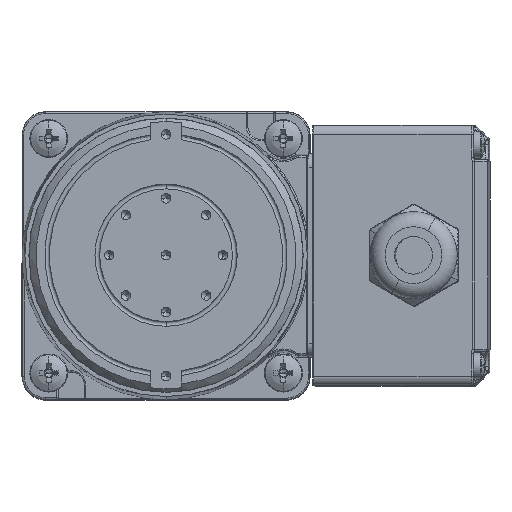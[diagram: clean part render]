
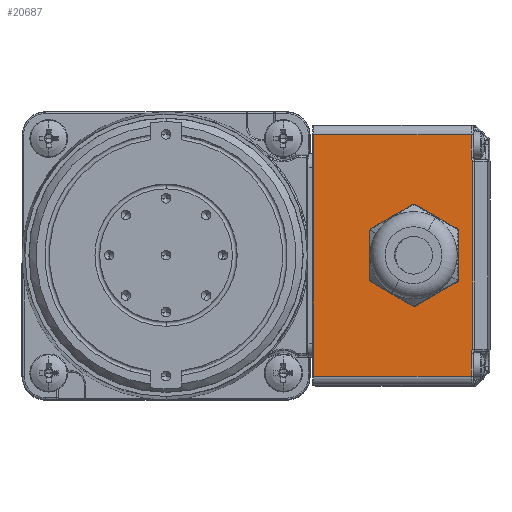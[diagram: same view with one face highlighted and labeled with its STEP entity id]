
A CAD part, top view. The second image highlights one B-rep face of the part: STEP entity #20687.
In plain terms, the highlighted planar face has unit normal (-0.009, 0, 1) as drawn and (0, 1, -0.008) by its records, which use the part's own axes.
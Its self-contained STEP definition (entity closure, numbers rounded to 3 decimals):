
#74 = ORIENTED_EDGE ( 'NONE', *, *, #23155, .F. ) ;
#878 = DIRECTION ( 'NONE',  ( 0., -0.008, -1. ) ) ;
#883 = AXIS2_PLACEMENT_3D ( 'NONE', #31025, #4067, #16067 ) ;
#917 = DIRECTION ( 'NONE',  ( 1., 0., 0. ) ) ;
#1681 = CARTESIAN_POINT ( 'NONE',  ( -19.875, 51.113, 74.305 ) ) ;
#1872 = CARTESIAN_POINT ( 'NONE',  ( -20.521, 51.11, 74.041 ) ) ;
#2389 = CARTESIAN_POINT ( 'NONE',  ( 25.5, 50.837, 40.73 ) ) ;
#3523 = CARTESIAN_POINT ( 'NONE',  ( 0., 51.079, 70.279 ) ) ;
#3916 = CARTESIAN_POINT ( 'NONE',  ( 19.971, 51.111, 74.249 ) ) ;
#4067 = DIRECTION ( 'NONE',  ( 0., 1., -0.008 ) ) ;
#4238 = VERTEX_POINT ( 'NONE', #28623 ) ;
#4646 = CARTESIAN_POINT ( 'NONE',  ( -19.838, 51.113, 74.321 ) ) ;
#4841 = CARTESIAN_POINT ( 'NONE',  ( -20.264, 51.111, 74.108 ) ) ;
#4945 = DIRECTION ( 'NONE',  ( -1., 0., 0. ) ) ;
#5325 = CIRCLE ( 'NONE', #27357, 8.25 ) ;
#5388 = ORIENTED_EDGE ( 'NONE', *, *, #38225, .T. ) ;
#5441 = DIRECTION ( 'NONE',  ( 0., -0.008, -1. ) ) ;
#5602 = B_SPLINE_CURVE_WITH_KNOTS ( 'NONE', 3,
 ( #36692, #9833, #21839, #33781, #6872, #18864, #30869, #3916, #15914, #27965 ),
 .UNSPECIFIED., .F., .F.,
 ( 4, 2, 2, 2, 4 ),
 ( 0., 0.25, 0.5, 0.75, 1. ),
 .UNSPECIFIED. ) ;
#6175 = CARTESIAN_POINT ( 'NONE',  ( 25.5, 51.11, 74.029 ) ) ;
#6205 = LINE ( 'NONE', #18204, #19056 ) ;
#6237 = VERTEX_POINT ( 'NONE', #3523 ) ;
#6781 = ORIENTED_EDGE ( 'NONE', *, *, #19880, .F. ) ;
#6872 = CARTESIAN_POINT ( 'NONE',  ( 20.319, 51.109, 74.087 ) ) ;
#7022 = FACE_BOUND ( 'NONE', #27093, .T. ) ;
#7157 = VERTEX_POINT ( 'NONE', #32628 ) ;
#7343 = CARTESIAN_POINT ( 'NONE',  ( 20.701, 51.11, 74.029 ) ) ;
#7500 = CARTESIAN_POINT ( 'NONE',  ( -19.835, 51.113, 74.321 ) ) ;
#7560 = EDGE_CURVE ( 'NONE', #22325, #10541, #15879, .T. ) ;
#7591 = CARTESIAN_POINT ( 'NONE',  ( -19.835, 51.113, 74.321 ) ) ;
#7805 = CARTESIAN_POINT ( 'NONE',  ( -20.091, 51.112, 74.184 ) ) ;
#7982 = VECTOR ( 'NONE', #8503, 1000. ) ;
#8503 = DIRECTION ( 'NONE',  ( -1., 0., 0. ) ) ;
#8704 = EDGE_CURVE ( 'NONE', #4238, #6237, #5325, .T. ) ;
#8793 = CARTESIAN_POINT ( 'NONE',  ( 25.5, 51.11, 74.029 ) ) ;
#9086 = DIRECTION ( 'NONE',  ( 0., 1., -0.008 ) ) ;
#9347 = CARTESIAN_POINT ( 'NONE',  ( -25.5, 50.837, 40.73 ) ) ;
#9568 = AXIS2_PLACEMENT_3D ( 'NONE', #35941, #9086, #21080 ) ;
#9833 = CARTESIAN_POINT ( 'NONE',  ( 20.622, 51.109, 74.032 ) ) ;
#9857 = CARTESIAN_POINT ( 'NONE',  ( 19.835, 51.113, 74.321 ) ) ;
#10000 = EDGE_CURVE ( 'NONE', #7157, #22325, #15833, .T. ) ;
#10541 = VERTEX_POINT ( 'NONE', #2389 ) ;
#10600 = VECTOR ( 'NONE', #878, 1000. ) ;
#10737 = CARTESIAN_POINT ( 'NONE',  ( -19.974, 51.112, 74.249 ) ) ;
#11223 = EDGE_LOOP ( 'NONE', ( #5388, #25895, #34636, #22329, #6781, #15624, #30216, #74 ) ) ;
#11517 = VERTEX_POINT ( 'NONE', #30426 ) ;
#11718 = ORIENTED_EDGE ( 'NONE', *, *, #25916, .F. ) ;
#12138 = EDGE_CURVE ( 'NONE', #11517, #7157, #23474, .T. ) ;
#12215 = VECTOR ( 'NONE', #4945, 1000. ) ;
#13679 = VERTEX_POINT ( 'NONE', #9857 ) ;
#13680 = CARTESIAN_POINT ( 'NONE',  ( -19.895, 51.112, 74.294 ) ) ;
#13880 = CARTESIAN_POINT ( 'NONE',  ( -20.614, 51.11, 74.031 ) ) ;
#15230 = VECTOR ( 'NONE', #917, 1000. ) ;
#15624 = ORIENTED_EDGE ( 'NONE', *, *, #22288, .F. ) ;
#15833 = LINE ( 'NONE', #27891, #10600 ) ;
#15879 = LINE ( 'NONE', #27928, #15230 ) ;
#15914 = CARTESIAN_POINT ( 'NONE',  ( 19.905, 51.111, 74.292 ) ) ;
#16067 = DIRECTION ( 'NONE',  ( -1., 0., 0. ) ) ;
#16401 = VERTEX_POINT ( 'NONE', #8793 ) ;
#16660 = CARTESIAN_POINT ( 'NONE',  ( -19.847, 51.113, 74.318 ) ) ;
#16857 = CARTESIAN_POINT ( 'NONE',  ( -20.339, 51.111, 74.083 ) ) ;
#18173 = DIRECTION ( 'NONE',  ( 0., -0.008, -1. ) ) ;
#18204 = CARTESIAN_POINT ( 'NONE',  ( 19.835, 51.113, 74.321 ) ) ;
#18864 = CARTESIAN_POINT ( 'NONE',  ( 20.177, 51.11, 74.142 ) ) ;
#19022 = PLANE ( 'NONE',  #883 ) ;
#19056 = VECTOR ( 'NONE', #30224, 1000. ) ;
#19478 = EDGE_CURVE ( 'NONE', #33740, #13679, #5602, .T. ) ;
#19597 = CARTESIAN_POINT ( 'NONE',  ( -19.835, 51.113, 74.321 ) ) ;
#19802 = CARTESIAN_POINT ( 'NONE',  ( -20.141, 51.111, 74.16 ) ) ;
#19880 = EDGE_CURVE ( 'NONE', #20176, #11517, #36373, .T. ) ;
#19906 = LINE ( 'NONE', #31890, #12215 ) ;
#20176 = VERTEX_POINT ( 'NONE', #7500 ) ;
#20395 = CARTESIAN_POINT ( 'NONE',  ( 0., 51.012, 62.029 ) ) ;
#20687 = ADVANCED_FACE ( 'NONE', ( #33926, #7022 ), #19022, .T. ) ;
#21080 = DIRECTION ( 'NONE',  ( 0., 0.008, 1. ) ) ;
#21839 = CARTESIAN_POINT ( 'NONE',  ( 20.543, 51.109, 74.037 ) ) ;
#22288 = EDGE_CURVE ( 'NONE', #13679, #20176, #6205, .T. ) ;
#22325 = VERTEX_POINT ( 'NONE', #9347 ) ;
#22329 = ORIENTED_EDGE ( 'NONE', *, *, #12138, .F. ) ;
#22754 = CARTESIAN_POINT ( 'NONE',  ( -20.008, 51.112, 74.229 ) ) ;
#23155 = EDGE_CURVE ( 'NONE', #16401, #33740, #19906, .T. ) ;
#23474 = LINE ( 'NONE', #35368, #7982 ) ;
#25738 = CARTESIAN_POINT ( 'NONE',  ( -19.918, 51.112, 74.281 ) ) ;
#25895 = ORIENTED_EDGE ( 'NONE', *, *, #7560, .F. ) ;
#25916 = EDGE_CURVE ( 'NONE', #6237, #4238, #26570, .T. ) ;
#25941 = CARTESIAN_POINT ( 'NONE',  ( -20.676, 51.11, 74.029 ) ) ;
#26570 = CIRCLE ( 'NONE', #9568, 8.25 ) ;
#27093 = EDGE_LOOP ( 'NONE', ( #11718, #35446 ) ) ;
#27357 = AXIS2_PLACEMENT_3D ( 'NONE', #20395, #32368, #5441 ) ;
#27891 = CARTESIAN_POINT ( 'NONE',  ( -25.5, 51.11, 74.029 ) ) ;
#27928 = CARTESIAN_POINT ( 'NONE',  ( -25.5, 50.837, 40.73 ) ) ;
#27965 = CARTESIAN_POINT ( 'NONE',  ( 19.835, 51.113, 74.321 ) ) ;
#28623 = CARTESIAN_POINT ( 'NONE',  ( 0., 50.944, 53.779 ) ) ;
#28695 = CARTESIAN_POINT ( 'NONE',  ( -19.859, 51.113, 74.313 ) ) ;
#28890 = CARTESIAN_POINT ( 'NONE',  ( -20.425, 51.111, 74.06 ) ) ;
#30216 = ORIENTED_EDGE ( 'NONE', *, *, #19478, .F. ) ;
#30224 = DIRECTION ( 'NONE',  ( -1., 0., 0. ) ) ;
#30426 = CARTESIAN_POINT ( 'NONE',  ( -20.701, 51.11, 74.029 ) ) ;
#30869 = CARTESIAN_POINT ( 'NONE',  ( 20.107, 51.11, 74.175 ) ) ;
#31025 = CARTESIAN_POINT ( 'NONE',  ( 27.5, 50.835, 40.53 ) ) ;
#31595 = CARTESIAN_POINT ( 'NONE',  ( -19.835, 51.113, 74.321 ) ) ;
#31789 = CARTESIAN_POINT ( 'NONE',  ( -20.198, 51.111, 74.134 ) ) ;
#31890 = CARTESIAN_POINT ( 'NONE',  ( 25.5, 51.11, 74.029 ) ) ;
#32368 = DIRECTION ( 'NONE',  ( 0., 1., -0.008 ) ) ;
#32628 = CARTESIAN_POINT ( 'NONE',  ( -25.5, 51.11, 74.029 ) ) ;
#33086 = LINE ( 'NONE', #6175, #36211 ) ;
#33740 = VERTEX_POINT ( 'NONE', #7343 ) ;
#33781 = CARTESIAN_POINT ( 'NONE',  ( 20.392, 51.109, 74.064 ) ) ;
#33926 = FACE_OUTER_BOUND ( 'NONE', #11223, .T. ) ;
#34474 = CARTESIAN_POINT ( 'NONE',  ( -19.835, 51.113, 74.321 ) ) ;
#34636 = ORIENTED_EDGE ( 'NONE', *, *, #10000, .F. ) ;
#34681 = CARTESIAN_POINT ( 'NONE',  ( -20.047, 51.112, 74.208 ) ) ;
#35368 = CARTESIAN_POINT ( 'NONE',  ( -20.701, 51.11, 74.029 ) ) ;
#35446 = ORIENTED_EDGE ( 'NONE', *, *, #8704, .F. ) ;
#35941 = CARTESIAN_POINT ( 'NONE',  ( 0., 51.012, 62.029 ) ) ;
#36211 = VECTOR ( 'NONE', #18173, 1000. ) ;
#36373 =( BOUNDED_CURVE ( )  B_SPLINE_CURVE ( 3, ( #34474, #7591, #19597, #31595, #4646, #16660, #28695, #1681, #13680, #25738, #37611, #10737, #22754, #34681, #7805, #19802, #31789, #4841, #16857, #28890, #1872, #13880, #25941, #37812 ),
 .UNSPECIFIED., .F., .F. ) 
 B_SPLINE_CURVE_WITH_KNOTS ( ( 4, 1, 1, 1, 1, 1, 1, 1, 1, 1, 1, 1, 1, 1, 1, 1, 1, 1, 1, 1, 1, 4 ),
 ( 0., 0., 0.03, 0.059, 0.087, 0.114, 0.143, 0.172, 0.204, 0.238, 0.275, 0.316, 0.36, 0.408, 0.462, 0.521, 0.588, 0.661, 0.743, 0.833, 0.932, 1. ),
 .UNSPECIFIED. ) 
 CURVE ( )  GEOMETRIC_REPRESENTATION_ITEM ( )  RATIONAL_B_SPLINE_CURVE ( ( 1.172, 1.172, 1.172, 1.172, 1.172, 1.172, 1.172, 1.172, 1.172, 1.172, 1.172, 1.172, 1.172, 1.172, 1.172, 1.172, 1.172, 1.172, 1.172, 1.172, 1.172, 1.172, 1.172, 1.172 ) ) 
 REPRESENTATION_ITEM ( '' )  );
#36692 = CARTESIAN_POINT ( 'NONE',  ( 20.701, 51.11, 74.029 ) ) ;
#37611 = CARTESIAN_POINT ( 'NONE',  ( -19.944, 51.112, 74.266 ) ) ;
#37812 = CARTESIAN_POINT ( 'NONE',  ( -20.701, 51.11, 74.029 ) ) ;
#38225 = EDGE_CURVE ( 'NONE', #16401, #10541, #33086, .T. ) ;
